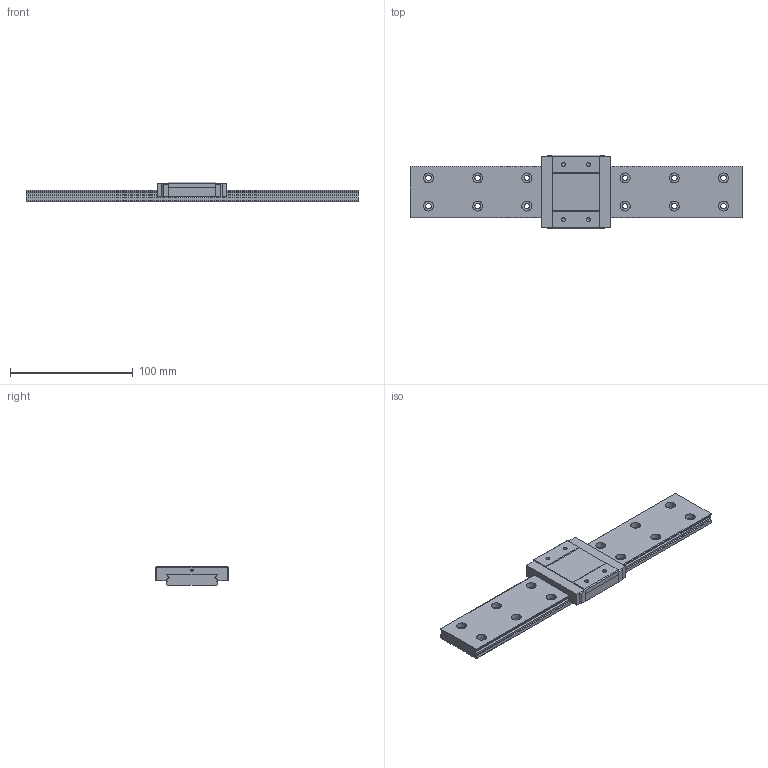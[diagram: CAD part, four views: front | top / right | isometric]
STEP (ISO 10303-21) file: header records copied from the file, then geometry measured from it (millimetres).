
FILE_DESCRIPTION((''),'2;1');
FILE_NAME('C:\Documents and Settings\土屋\My Documents\土屋移動用フォルダ\製品 (図面)\カタログ用3D\リニアガイド\EGM-W\EGM15W.stp','2015-02-21T13:16:44',('y'),(''),'Autodesk Inventor 11','Autodesk Inventor 11','');
FILE_SCHEMA(('AUTOMOTIVE_DESIGN { 1 0 10303 214 1 1 1 1 }'));
Length unit declared in the file: millimetre
Products named in the file (3): EGM15W; EGM15Wレール; EGM15Wベアリング
Assembly tree (2 placements, depth 2):
  EGM15W
    EGM15Wレール
    EGM15Wベアリング
Bounding box: 270 x 60 x 16 mm (x, y, z)
Volume: 122967.1 mm3; surface area: 41488 mm2
Topology: 2 solids, 2 shells, 138 faces, 354 edges, 236 vertices
Faces by surface type: plane 66, bspline 52, cylinder 20
Full cylindrical faces by diameter (mm): 1.9 x1
Entity records: 4555 total; most frequent: CARTESIAN_POINT 1353, ORIENTED_EDGE 616, DIRECTION 596, EDGE_CURVE 308, VERTEX_POINT 228, EDGE_LOOP 220, VECTOR 202, LINE 202
